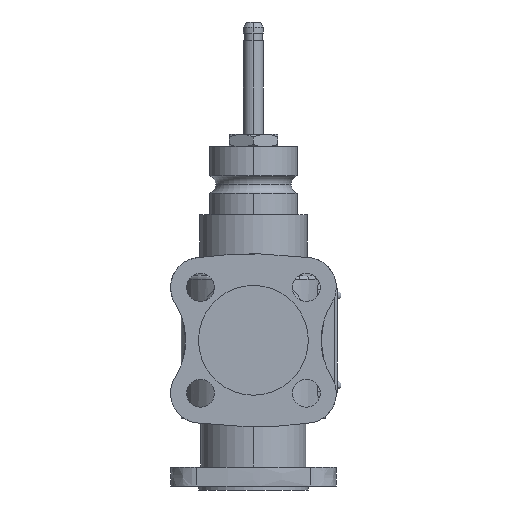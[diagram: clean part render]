
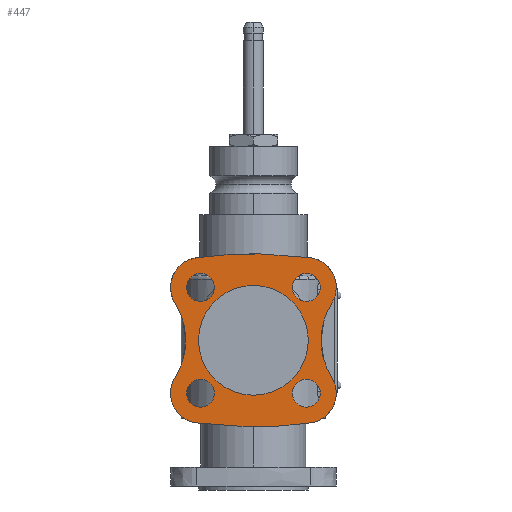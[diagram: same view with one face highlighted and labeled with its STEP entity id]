
A CAD part, left-side view. The second image highlights one B-rep face of the part: STEP entity #447.
In plain terms, the highlighted planar face has unit normal (-1, 0, 0).
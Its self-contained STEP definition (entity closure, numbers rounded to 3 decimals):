
#168=B_SPLINE_CURVE_WITH_KNOTS('',3,(#5889,#5890,#5891,#5892),
 .UNSPECIFIED.,.F.,.F.,(4,4),(0.,1.),.UNSPECIFIED.);
#169=B_SPLINE_CURVE_WITH_KNOTS('',3,(#5895,#5896,#5897,#5898,#5899,#5900),
 .UNSPECIFIED.,.F.,.F.,(4,2,4),(0.,0.5,1.),.UNSPECIFIED.);
#170=B_SPLINE_CURVE_WITH_KNOTS('',3,(#5902,#5903,#5904,#5905,#5906,#5907,
#5908,#5909,#5910,#5911),.UNSPECIFIED.,.F.,.F.,(4,2,2,2,4),(0.,0.25,0.5,
0.75,1.),.UNSPECIFIED.);
#171=B_SPLINE_CURVE_WITH_KNOTS('',3,(#5913,#5914,#5915,#5916,#5917,#5918),
 .UNSPECIFIED.,.F.,.F.,(4,2,4),(0.,0.5,1.),.UNSPECIFIED.);
#172=B_SPLINE_CURVE_WITH_KNOTS('',3,(#5920,#5921,#5922,#5923),
 .UNSPECIFIED.,.F.,.F.,(4,4),(0.,1.),.UNSPECIFIED.);
#173=B_SPLINE_CURVE_WITH_KNOTS('',3,(#5925,#5926,#5927,#5928,#5929,#5930),
 .UNSPECIFIED.,.F.,.F.,(4,2,4),(0.,0.5,1.),.UNSPECIFIED.);
#174=B_SPLINE_CURVE_WITH_KNOTS('',3,(#5932,#5933,#5934,#5935,#5936,#5937,
#5938,#5939,#5940,#5941),.UNSPECIFIED.,.F.,.F.,(4,2,2,2,4),(0.,0.25,0.5,
0.75,1.),.UNSPECIFIED.);
#175=B_SPLINE_CURVE_WITH_KNOTS('',3,(#5943,#5944,#5945,#5946,#5947,#5948),
 .UNSPECIFIED.,.F.,.F.,(4,2,4),(0.,0.5,1.),.UNSPECIFIED.);
#257=PLANE('',#2491);
#308=FACE_BOUND('',#752,.T.);
#309=FACE_BOUND('',#753,.T.);
#310=FACE_BOUND('',#754,.T.);
#311=FACE_BOUND('',#755,.T.);
#312=FACE_BOUND('',#756,.T.);
#313=FACE_BOUND('',#757,.T.);
#447=ADVANCED_FACE('',(#308,#309,#310,#311,#312,#313),#257,.F.);
#752=EDGE_LOOP('',(#1497,#1498,#1499,#1500,#1501,#1502,#1503,#1504));
#753=EDGE_LOOP('',(#1505));
#754=EDGE_LOOP('',(#1506));
#755=EDGE_LOOP('',(#1507));
#756=EDGE_LOOP('',(#1508));
#757=EDGE_LOOP('',(#1509));
#1497=ORIENTED_EDGE('',*,*,#2122,.T.);
#1498=ORIENTED_EDGE('',*,*,#2123,.T.);
#1499=ORIENTED_EDGE('',*,*,#2124,.T.);
#1500=ORIENTED_EDGE('',*,*,#2125,.T.);
#1501=ORIENTED_EDGE('',*,*,#2126,.T.);
#1502=ORIENTED_EDGE('',*,*,#2127,.T.);
#1503=ORIENTED_EDGE('',*,*,#2128,.T.);
#1504=ORIENTED_EDGE('',*,*,#2129,.T.);
#1505=ORIENTED_EDGE('',*,*,#2130,.F.);
#1506=ORIENTED_EDGE('',*,*,#2131,.F.);
#1507=ORIENTED_EDGE('',*,*,#2132,.F.);
#1508=ORIENTED_EDGE('',*,*,#2133,.F.);
#1509=ORIENTED_EDGE('',*,*,#2134,.T.);
#1833=VERTEX_POINT('',#5893);
#1834=VERTEX_POINT('',#5894);
#1835=VERTEX_POINT('',#5901);
#1836=VERTEX_POINT('',#5912);
#1837=VERTEX_POINT('',#5919);
#1838=VERTEX_POINT('',#5924);
#1839=VERTEX_POINT('',#5931);
#1840=VERTEX_POINT('',#5942);
#1841=VERTEX_POINT('',#5950);
#1842=VERTEX_POINT('',#5952);
#1843=VERTEX_POINT('',#5954);
#1844=VERTEX_POINT('',#5956);
#1845=VERTEX_POINT('',#5958);
#2122=EDGE_CURVE('',#1833,#1834,#168,.T.);
#2123=EDGE_CURVE('',#1834,#1835,#169,.T.);
#2124=EDGE_CURVE('',#1835,#1836,#170,.T.);
#2125=EDGE_CURVE('',#1836,#1837,#171,.T.);
#2126=EDGE_CURVE('',#1837,#1838,#172,.T.);
#2127=EDGE_CURVE('',#1838,#1839,#173,.T.);
#2128=EDGE_CURVE('',#1839,#1840,#174,.T.);
#2129=EDGE_CURVE('',#1840,#1833,#175,.T.);
#2130=EDGE_CURVE('',#1841,#1841,#2287,.T.);
#2131=EDGE_CURVE('',#1842,#1842,#2288,.T.);
#2132=EDGE_CURVE('',#1843,#1843,#2289,.T.);
#2133=EDGE_CURVE('',#1844,#1844,#2290,.T.);
#2134=EDGE_CURVE('',#1845,#1845,#2291,.T.);
#2287=CIRCLE('',#2486,7.);
#2288=CIRCLE('',#2487,7.);
#2289=CIRCLE('',#2488,7.);
#2290=CIRCLE('',#2489,7.);
#2291=CIRCLE('',#2490,27.5);
#2486=AXIS2_PLACEMENT_3D('',#5949,#2955,#2956);
#2487=AXIS2_PLACEMENT_3D('',#5951,#2957,#2958);
#2488=AXIS2_PLACEMENT_3D('',#5953,#2959,#2960);
#2489=AXIS2_PLACEMENT_3D('',#5955,#2961,#2962);
#2490=AXIS2_PLACEMENT_3D('',#5957,#2963,#2964);
#2491=AXIS2_PLACEMENT_3D('',#5959,#2965,#2966);
#2955=DIRECTION('',(-1.,0.,0.));
#2956=DIRECTION('',(0.,1.,0.));
#2957=DIRECTION('',(-1.,0.,0.));
#2958=DIRECTION('',(0.,0.,-1.));
#2959=DIRECTION('',(-1.,0.,0.));
#2960=DIRECTION('',(0.,-1.,0.));
#2961=DIRECTION('',(-1.,0.,0.));
#2962=DIRECTION('',(0.,0.,1.));
#2963=DIRECTION('',(1.,0.,0.));
#2964=DIRECTION('',(0.,0.,-1.));
#2965=DIRECTION('',(1.,0.,0.));
#2966=DIRECTION('',(0.,0.,1.));
#5889=CARTESIAN_POINT('',(82.,-28.556,41.377));
#5890=CARTESIAN_POINT('',(82.,-9.619,43.976));
#5891=CARTESIAN_POINT('',(82.,9.619,43.976));
#5892=CARTESIAN_POINT('',(82.,28.556,41.377));
#5893=CARTESIAN_POINT('',(82.,-28.556,41.377));
#5894=CARTESIAN_POINT('',(82.,28.556,41.377));
#5895=CARTESIAN_POINT('',(82.,28.556,41.377));
#5896=CARTESIAN_POINT('',(82.,33.539,40.693));
#5897=CARTESIAN_POINT('',(82.,37.972,37.423));
#5898=CARTESIAN_POINT('',(82.,42.228,28.336));
#5899=CARTESIAN_POINT('',(82.,41.901,22.826));
#5900=CARTESIAN_POINT('',(82.,39.233,18.562));
#5901=CARTESIAN_POINT('',(82.,39.233,18.562));
#5902=CARTESIAN_POINT('',(82.,39.233,18.562));
#5903=CARTESIAN_POINT('',(82.,37.489,15.773));
#5904=CARTESIAN_POINT('',(82.,36.171,12.809));
#5905=CARTESIAN_POINT('',(82.,34.368,6.538));
#5906=CARTESIAN_POINT('',(82.,33.908,3.271));
#5907=CARTESIAN_POINT('',(82.,33.904,-3.223));
#5908=CARTESIAN_POINT('',(82.,34.365,-6.516));
#5909=CARTESIAN_POINT('',(82.,36.15,-12.751));
#5910=CARTESIAN_POINT('',(82.,37.489,-15.773));
#5911=CARTESIAN_POINT('',(82.,39.233,-18.562));
#5912=CARTESIAN_POINT('',(82.,39.233,-18.562));
#5913=CARTESIAN_POINT('',(82.,39.233,-18.562));
#5914=CARTESIAN_POINT('',(82.,41.901,-22.826));
#5915=CARTESIAN_POINT('',(82.,42.23,-28.324));
#5916=CARTESIAN_POINT('',(82.,37.98,-37.414));
#5917=CARTESIAN_POINT('',(82.,33.539,-40.693));
#5918=CARTESIAN_POINT('',(82.,28.556,-41.377));
#5919=CARTESIAN_POINT('',(82.,28.556,-41.377));
#5920=CARTESIAN_POINT('',(82.,28.556,-41.377));
#5921=CARTESIAN_POINT('',(82.,9.619,-43.976));
#5922=CARTESIAN_POINT('',(82.,-9.619,-43.976));
#5923=CARTESIAN_POINT('',(82.,-28.556,-41.377));
#5924=CARTESIAN_POINT('',(82.,-28.556,-41.377));
#5925=CARTESIAN_POINT('',(82.,-28.556,-41.377));
#5926=CARTESIAN_POINT('',(82.,-33.54,-40.693));
#5927=CARTESIAN_POINT('',(82.,-37.972,-37.422));
#5928=CARTESIAN_POINT('',(82.,-42.229,-28.335));
#5929=CARTESIAN_POINT('',(82.,-41.901,-22.826));
#5930=CARTESIAN_POINT('',(82.,-39.233,-18.562));
#5931=CARTESIAN_POINT('',(82.,-39.233,-18.562));
#5932=CARTESIAN_POINT('',(82.,-39.233,-18.562));
#5933=CARTESIAN_POINT('',(82.,-37.489,-15.773));
#5934=CARTESIAN_POINT('',(82.,-36.171,-12.809));
#5935=CARTESIAN_POINT('',(82.,-34.368,-6.538));
#5936=CARTESIAN_POINT('',(82.,-33.908,-3.271));
#5937=CARTESIAN_POINT('',(82.,-33.904,3.223));
#5938=CARTESIAN_POINT('',(82.,-34.365,6.516));
#5939=CARTESIAN_POINT('',(82.,-36.15,12.751));
#5940=CARTESIAN_POINT('',(82.,-37.489,15.773));
#5941=CARTESIAN_POINT('',(82.,-39.233,18.562));
#5942=CARTESIAN_POINT('',(82.,-39.233,18.562));
#5943=CARTESIAN_POINT('',(82.,-39.233,18.562));
#5944=CARTESIAN_POINT('',(82.,-41.901,22.826));
#5945=CARTESIAN_POINT('',(82.,-42.23,28.325));
#5946=CARTESIAN_POINT('',(82.,-37.979,37.415));
#5947=CARTESIAN_POINT('',(82.,-33.539,40.693));
#5948=CARTESIAN_POINT('',(82.,-28.556,41.377));
#5949=CARTESIAN_POINT('',(82.,26.5,26.5));
#5950=CARTESIAN_POINT('',(82.,33.5,26.5));
#5951=CARTESIAN_POINT('',(82.,26.5,-26.5));
#5952=CARTESIAN_POINT('',(82.,26.5,-33.5));
#5953=CARTESIAN_POINT('',(82.,-26.5,-26.5));
#5954=CARTESIAN_POINT('',(82.,-33.5,-26.5));
#5955=CARTESIAN_POINT('',(82.,-26.5,26.5));
#5956=CARTESIAN_POINT('',(82.,-26.5,33.5));
#5957=CARTESIAN_POINT('',(82.,0.,0.));
#5958=CARTESIAN_POINT('',(82.,0.,-27.5));
#5959=CARTESIAN_POINT('',(82.,0.,0.));
